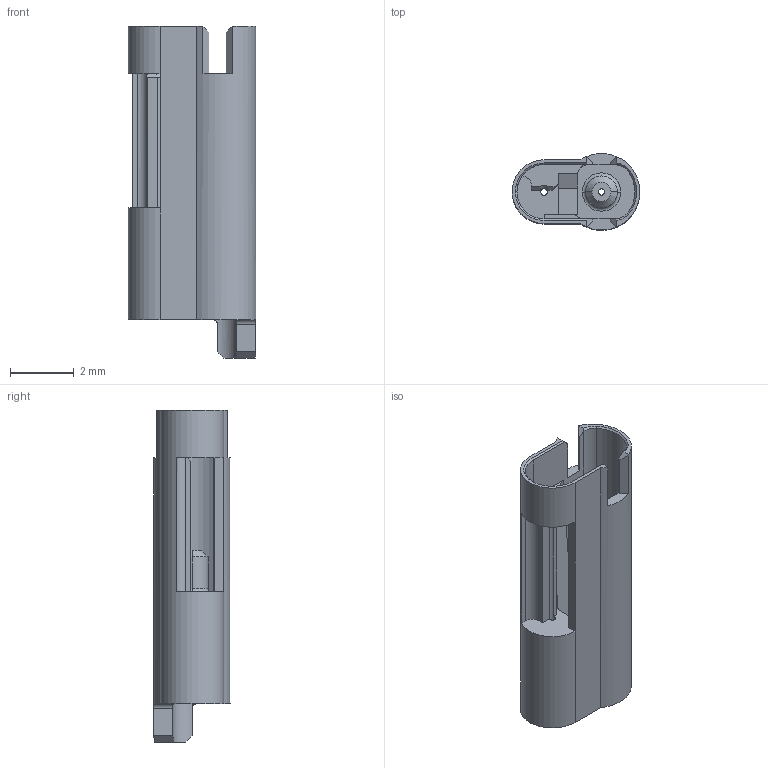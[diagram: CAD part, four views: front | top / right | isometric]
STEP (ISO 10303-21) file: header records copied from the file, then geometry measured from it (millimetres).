
FILE_DESCRIPTION (( 'STEP AP214' ), '1' );
FILE_NAME ('TRL-0044-CTR-A.STEP', '2021-06-27T15:19:22', ( '' ), ( '' ), 'SwSTEP 2.0', 'SolidWorks 2016', '' );
FILE_SCHEMA (( 'AUTOMOTIVE_DESIGN' ));
Length unit declared in the file: millimetre
Products named in the file (1): TRL-0044-CTR-A
Bounding box: 4 x 2.4 x 10.4 mm (x, y, z)
Volume: 39 mm3; surface area: 177.8 mm2
Topology: 1 solids, 1 shells, 94 faces, 251 edges, 158 vertices
Faces by surface type: plane 54, cylinder 23, cone 12, bspline 3, torus 2
Entity records: 3329 total; most frequent: CARTESIAN_POINT 965, ORIENTED_EDGE 502, DIRECTION 476, EDGE_CURVE 251, AXIS2_PLACEMENT_3D 159, VERTEX_POINT 158, VECTOR 158, LINE 158
